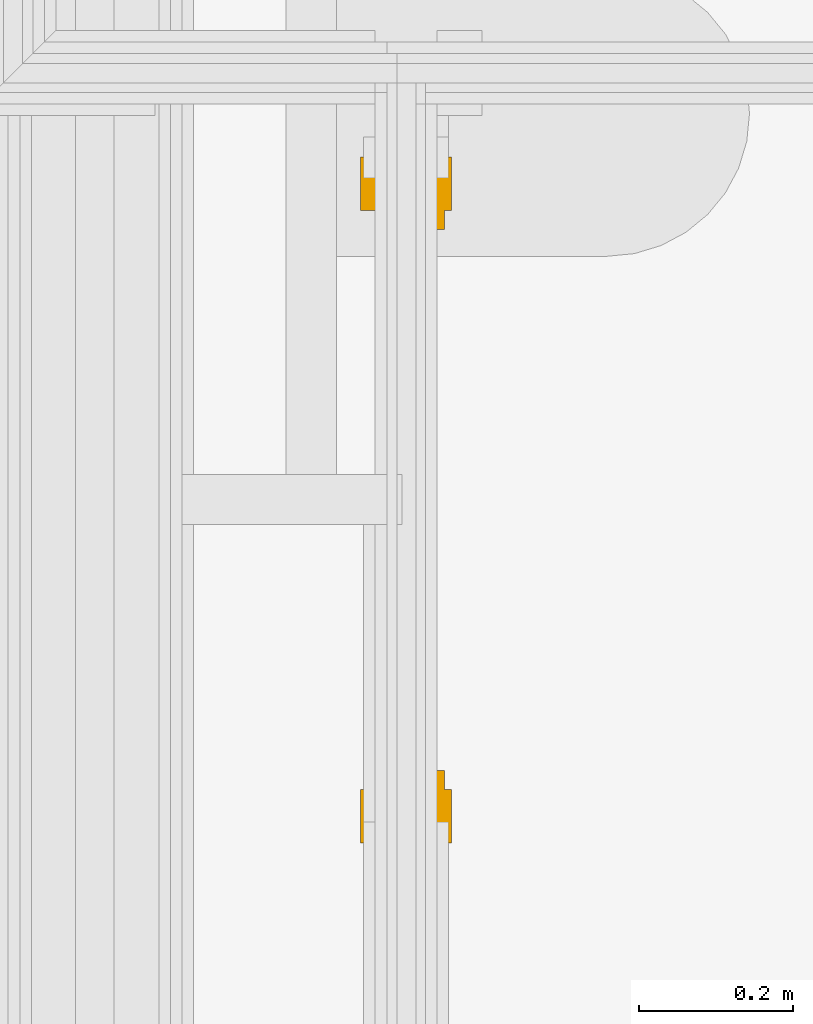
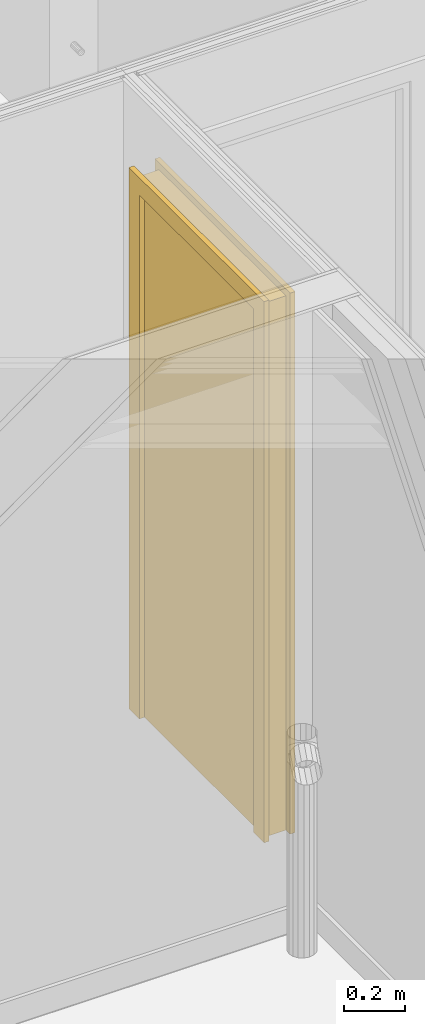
# One storey, part 113 of 169: 1 door.
"""IFC2X3 building model written with IfcOpenShell, lengths in metres."""

from ifc_helpers import new_model, entity, si_unit, converted_unit, derived_unit, money_unit, direction, frame, origin_with_axes, place, context, subcontext, project, spatial, faceted_brep, material, type_object, element, save


model = new_model("IFC2X3")

# Units and contexts
model_context = context("Model", 3, precision=1e-05, world=origin_with_axes(), true_north=direction((0.0, 1.0)))
body_context = subcontext(model_context, "Body", "Model", "MODEL_VIEW", scale=1.0)
ifc_project = project(units=[si_unit("LENGTHUNIT", "METRE"), si_unit("AREAUNIT", "SQUARE_METRE"), si_unit("VOLUMEUNIT", "CUBIC_METRE"), si_unit("ABSORBEDDOSEUNIT", "GRAY"), si_unit("AMOUNTOFSUBSTANCEUNIT", "MOLE"), si_unit("DOSEEQUIVALENTUNIT", "SIEVERT"), si_unit("ELECTRICCAPACITANCEUNIT", "FARAD"), si_unit("ELECTRICCHARGEUNIT", "COULOMB"), si_unit("ELECTRICCONDUCTANCEUNIT", "SIEMENS"), si_unit("ELECTRICCURRENTUNIT", "AMPERE"), si_unit("ELECTRICRESISTANCEUNIT", "OHM"), si_unit("ELECTRICVOLTAGEUNIT", "VOLT"), si_unit("ENERGYUNIT", "JOULE"), si_unit("FORCEUNIT", "NEWTON"), si_unit("FREQUENCYUNIT", "HERTZ"), si_unit("ILLUMINANCEUNIT", "LUX"), si_unit("INDUCTANCEUNIT", "HENRY"), si_unit("LUMINOUSFLUXUNIT", "LUMEN"), si_unit("LUMINOUSINTENSITYUNIT", "CANDELA"), si_unit("MAGNETICFLUXDENSITYUNIT", "TESLA"), si_unit("MAGNETICFLUXUNIT", "WEBER"), si_unit("MASSUNIT", "GRAM"), converted_unit("PLANEANGLEUNIT", "degree", entity("IfcReal", 0.0174532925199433), si_unit("PLANEANGLEUNIT", "RADIAN"), dimensions=[0, 0, 0, 0, 0, 0, 0]), si_unit("POWERUNIT", "WATT"), si_unit("PRESSUREUNIT", "PASCAL"), si_unit("RADIOACTIVITYUNIT", "BECQUEREL"), si_unit("SOLIDANGLEUNIT", "STERADIAN"), si_unit("THERMODYNAMICTEMPERATUREUNIT", "KELVIN"), si_unit("TIMEUNIT", "SECOND"), derived_unit("ACCELERATIONUNIT", [(si_unit("LENGTHUNIT", "METRE"), 1), (si_unit("TIMEUNIT", "SECOND"), -2)]), derived_unit("ANGULARVELOCITYUNIT", [(converted_unit("PLANEANGLEUNIT", "degree", entity("IfcReal", 0.0174532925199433), si_unit("PLANEANGLEUNIT", "RADIAN"), dimensions=[0, 0, 0, 0, 0, 0, 0]), 1), (si_unit("TIMEUNIT", "SECOND"), -1)]), derived_unit("CURVATUREUNIT", [(converted_unit("PLANEANGLEUNIT", "degree", entity("IfcReal", 0.0174532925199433), si_unit("PLANEANGLEUNIT", "RADIAN"), dimensions=[0, 0, 0, 0, 0, 0, 0]), 1), (si_unit("LENGTHUNIT", "METRE"), -1)]), derived_unit("DYNAMICVISCOSITYUNIT", [(si_unit("PRESSUREUNIT", "PASCAL"), 1), (si_unit("TIMEUNIT", "SECOND"), 1)]), derived_unit("HEATFLUXDENSITYUNIT", [(si_unit("POWERUNIT", "WATT"), 1), (si_unit("LENGTHUNIT", "METRE"), -2)]), derived_unit("HEATINGVALUEUNIT", [(si_unit("ENERGYUNIT", "JOULE"), 1), (si_unit("MASSUNIT", "GRAM"), -1)]), derived_unit("INTEGERCOUNTRATEUNIT", [(si_unit("TIMEUNIT", "SECOND"), -1)]), derived_unit("IONCONCENTRATIONUNIT", [(si_unit("MASSUNIT", "GRAM"), 1), (si_unit("VOLUMEUNIT", "CUBIC_METRE"), -1)]), derived_unit("ISOTHERMALMOISTURECAPACITYUNIT", [(si_unit("VOLUMEUNIT", "CUBIC_METRE"), 1), (si_unit("MASSUNIT", "GRAM"), -1)]), derived_unit("KINEMATICVISCOSITYUNIT", [(si_unit("AREAUNIT", "SQUARE_METRE"), 1), (si_unit("TIMEUNIT", "SECOND"), -1)]), derived_unit("LINEARFORCEUNIT", [(si_unit("FORCEUNIT", "NEWTON"), 1), (si_unit("LENGTHUNIT", "METRE"), -1)]), derived_unit("LINEARMOMENTUNIT", [(si_unit("FORCEUNIT", "NEWTON"), 1), (si_unit("LENGTHUNIT", "METRE"), -1)]), derived_unit("LINEARSTIFFNESSUNIT", [(si_unit("FORCEUNIT", "NEWTON"), 1), (si_unit("LENGTHUNIT", "METRE"), -1)]), derived_unit("LINEARVELOCITYUNIT", [(si_unit("LENGTHUNIT", "METRE"), 1), (si_unit("TIMEUNIT", "SECOND"), -1)]), derived_unit("LUMINOUSINTENSITYDISTRIBUTIONUNIT", [(si_unit("LUMINOUSINTENSITYUNIT", "CANDELA"), 1), (si_unit("LUMINOUSFLUXUNIT", "LUMEN"), -1)]), derived_unit("MASSDENSITYUNIT", [(si_unit("MASSUNIT", "GRAM"), 1), (si_unit("VOLUMEUNIT", "CUBIC_METRE"), -1)]), derived_unit("MASSFLOWRATEUNIT", [(si_unit("MASSUNIT", "GRAM"), 1), (si_unit("TIMEUNIT", "SECOND"), -1)]), derived_unit("MASSPERLENGTHUNIT", [(si_unit("MASSUNIT", "GRAM"), 1), (si_unit("LENGTHUNIT", "METRE"), -1)]), derived_unit("MODULUSOFELASTICITYUNIT", [(si_unit("FORCEUNIT", "NEWTON"), 1), (si_unit("AREAUNIT", "SQUARE_METRE"), -1)]), derived_unit("MODULUSOFLINEARSUBGRADEREACTIONUNIT", [(si_unit("FORCEUNIT", "NEWTON"), 1), (si_unit("LENGTHUNIT", "METRE"), -2)]), derived_unit("MODULUSOFROTATIONALSUBGRADEREACTIONUNIT", [(si_unit("FORCEUNIT", "NEWTON"), 1), (si_unit("LENGTHUNIT", "METRE"), 1)]), derived_unit("MODULUSOFSUBGRADEREACTIONUNIT", [(si_unit("FORCEUNIT", "NEWTON"), 1), (si_unit("VOLUMEUNIT", "CUBIC_METRE"), -1)]), derived_unit("MOISTUREDIFFUSIVITYUNIT", [(si_unit("VOLUMEUNIT", "CUBIC_METRE"), 1), (si_unit("TIMEUNIT", "SECOND"), -1)]), derived_unit("MOLECULARWEIGHTUNIT", [(si_unit("MASSUNIT", "GRAM"), 1), (si_unit("AMOUNTOFSUBSTANCEUNIT", "MOLE"), -1)]), derived_unit("PLANARFORCEUNIT", [(si_unit("FORCEUNIT", "NEWTON"), 1), (si_unit("LENGTHUNIT", "METRE"), -2)]), derived_unit("ROTATIONALFREQUENCYUNIT", [(si_unit("TIMEUNIT", "SECOND"), -1)]), derived_unit("ROTATIONALMASSUNIT", [(si_unit("MASSUNIT", "GRAM"), 1), (si_unit("LENGTHUNIT", "METRE"), 2)]), derived_unit("ROTATIONALSTIFFNESSUNIT", [(si_unit("FORCEUNIT", "NEWTON"), 1), (si_unit("LENGTHUNIT", "METRE"), 1), (converted_unit("PLANEANGLEUNIT", "degree", entity("IfcReal", 0.0174532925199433), si_unit("PLANEANGLEUNIT", "RADIAN"), dimensions=[0, 0, 0, 0, 0, 0, 0]), -1)]), derived_unit("SECTIONAREAINTEGRALUNIT", [(si_unit("LENGTHUNIT", "METRE"), 5)]), derived_unit("SECTIONMODULUSUNIT", [(si_unit("LENGTHUNIT", "METRE"), 3)]), derived_unit("SHEARMODULUSUNIT", [(si_unit("FORCEUNIT", "NEWTON"), 1), (si_unit("AREAUNIT", "SQUARE_METRE"), -1)]), derived_unit("SOUNDPOWERUNIT", [(si_unit("ENERGYUNIT", "JOULE"), 1), (si_unit("TIMEUNIT", "SECOND"), -1)]), derived_unit("SPECIFICHEATCAPACITYUNIT", [(si_unit("FORCEUNIT", "NEWTON"), 1), (si_unit("MASSUNIT", "GRAM"), -1), (si_unit("THERMODYNAMICTEMPERATUREUNIT", "KELVIN"), -1)]), derived_unit("TEMPERATUREGRADIENTUNIT", [(si_unit("THERMODYNAMICTEMPERATUREUNIT", "KELVIN"), 1), (si_unit("LENGTHUNIT", "METRE"), -1)]), derived_unit("THERMALADMITTANCEUNIT", [(si_unit("POWERUNIT", "WATT"), 1), (si_unit("AREAUNIT", "SQUARE_METRE"), -1), (si_unit("THERMODYNAMICTEMPERATUREUNIT", "KELVIN"), -1)]), derived_unit("THERMALCONDUCTANCEUNIT", [(si_unit("POWERUNIT", "WATT"), 1), (si_unit("LENGTHUNIT", "METRE"), -1), (si_unit("THERMODYNAMICTEMPERATUREUNIT", "KELVIN"), -1)]), derived_unit("THERMALEXPANSIONCOEFFICIENTUNIT", [(si_unit("THERMODYNAMICTEMPERATUREUNIT", "KELVIN"), -1)]), derived_unit("THERMALRESISTANCEUNIT", [(si_unit("AREAUNIT", "SQUARE_METRE"), 1), (si_unit("POWERUNIT", "WATT"), -1)]), derived_unit("THERMALTRANSMITTANCEUNIT", [(si_unit("POWERUNIT", "WATT"), 1), (si_unit("AREAUNIT", "SQUARE_METRE"), -1), (si_unit("THERMODYNAMICTEMPERATUREUNIT", "KELVIN"), -1)]), derived_unit("TORQUEUNIT", [(si_unit("FORCEUNIT", "NEWTON"), 1), (si_unit("LENGTHUNIT", "METRE"), 1)]), derived_unit("VAPORPERMEABILITYUNIT", [(si_unit("MASSUNIT", "GRAM"), 1), (si_unit("TIMEUNIT", "SECOND"), -1)]), derived_unit("VOLUMETRICFLOWRATEUNIT", [(si_unit("VOLUMEUNIT", "CUBIC_METRE"), 1), (si_unit("TIMEUNIT", "SECOND"), -1)]), derived_unit("WARPINGCONSTANTUNIT", [(si_unit("LENGTHUNIT", "METRE"), 6)]), derived_unit("WARPINGMOMENTUNIT", [(si_unit("FORCEUNIT", "NEWTON"), 1), (si_unit("LENGTHUNIT", "METRE"), 2)]), money_unit("GBP")], contexts=[model_context])

# Site, building, storey, space
site_placement = place(None, origin_with_axes())
site = spatial("IfcSite", under=ifc_project, at=site_placement, Name="Site", CompositionType="ELEMENT")
building_placement = place(site_placement, origin_with_axes())
building = spatial("IfcBuilding", under=site, at=building_placement, Name="Building01", CompositionType="ELEMENT")
storey_placement = place(building_placement, frame((0.0, 0.0, 5.15), z_axis=(0.0, 0.0, 1.0), x_axis=(1.0, 0.0, 0.0)))
storey = spatial("IfcBuildingStorey", under=building, at=storey_placement, Name="1F", CompositionType="ELEMENT", Elevation=5.15)
space_placement = place(storey_placement, frame((16.03844, 8.82, 9.86), z_axis=(0.0, 0.0, 1.0), x_axis=(0.0, -1.0, 0.0)))
space = spatial("IfcSpace", under=storey, at=space_placement, Name="23", CompositionType="ELEMENT", InteriorOrExteriorSpace="NOTDEFINED")

# Door
ifc_material = material(Name="A_BSUK_Doors")
door_style = type_object("IfcDoorStyle", Name="A-Doors-SingleFlush", ConstructionType="USERDEFINED", OperationType="SINGLE_SWING_RIGHT", ParameterTakesPrecedence=False, Sizeable=False)
door_placement = place(storey_placement, frame((15.95844, 9.211939, 9.83), z_axis=(0.0, 0.0, 1.0), x_axis=(0.0, 1.0, 0.0)))
element("IfcDoor", 1, at=door_placement, inside=space, type_object=door_style, material=ifc_material, Name="4.05", ObjectType="A-Doors-SingleFlush", OverallHeight=2.16900000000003, OverallWidth=0.888000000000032, context=body_context, shape_type="Brep", body=[
    faceted_brep([(0.75, -0.099, 0.0), (0.819, -0.099, 0.0), (0.819, -0.099, 2.169), (-0.069, -0.099, 2.169), (-0.069, -0.099, 0.0), (0.0, -0.099, 0.0), (0.0, -0.099, 2.1), (0.75, -0.099, 2.1), (-0.069, -0.08, 0.0), (-0.069, -0.08, 2.169), (0.819, -0.08, 2.169), (0.819, -0.08, 0.0), (0.75, 0.019, 0.0), (0.819, 0.019, 0.0), (0.819, 0.0, 0.0), (0.792, 0.0, 0.0), (0.792, -0.08, 0.0), (0.75, 0.019, 2.1), (0.0, 0.019, 2.1), (0.0, 0.019, 0.0), (-0.069, 0.019, 0.0), (-0.069, 0.019, 2.169), (0.819, 0.019, 2.169), (0.819, 0.0, 2.169), (0.792, -0.08, 2.142), (0.792, 0.0, 2.142), (-0.042, -0.08, 2.142), (-0.042, 0.0, 2.142), (-0.042, -0.08, 0.0), (-0.042, 0.0, 0.0), (-0.069, 0.0, 2.169), (-0.069, 0.0, 0.0)], [[[0, 1, 2, 3, 4, 5, 6, 7]], [[8, 4, 3, 9]], [[10, 2, 1, 11]], [[9, 3, 2, 10]], [[12, 13, 14, 15, 16, 11, 1, 0]], [[7, 17, 12, 0]], [[6, 18, 17, 7]], [[18, 19, 20, 21, 22, 13, 12, 17]], [[5, 19, 18, 6]], [[13, 22, 23, 14]], [[24, 16, 15, 25]], [[26, 24, 25, 27]], [[11, 16, 24, 26, 28, 8, 9, 10]], [[27, 29, 28, 26]], [[25, 15, 14, 23, 30, 31, 29, 27]], [[5, 4, 8, 28, 29, 31, 20, 19]], [[30, 21, 20, 31]], [[23, 22, 21, 30]]]),
    faceted_brep([(0.0, -0.09, 2.1), (0.0, -0.04, 2.1), (0.0, -0.04, 0.0), (0.0, -0.09, 0.0), (0.725, -0.09, 0.0), (0.75, -0.09, 0.0), (0.75, -0.09, 2.1), (0.025, -0.09, 0.0), (0.025, -0.09, 2.075), (0.725, -0.09, 2.075), (0.725, -0.04, 0.0), (0.75, -0.04, 0.0), (0.75, -0.04, 2.1), (0.025, -0.04, 2.075), (0.025, -0.04, 0.0), (0.725, -0.04, 2.075)], [[[0, 1, 2, 3]], [[4, 5, 6, 0, 3, 7, 8, 9]], [[10, 11, 5, 4]], [[6, 12, 1, 0]], [[5, 11, 12, 6]], [[13, 14, 2, 1, 12, 11, 10, 15]], [[7, 14, 13, 8]], [[7, 3, 2, 14]], [[9, 15, 10, 4]], [[8, 13, 15, 9]]]),
    faceted_brep([(0.75, -0.04, 0.0), (0.75, 0.0, 0.0), (0.75, 0.0, 2.1), (0.75, -0.04, 2.1), (0.0, -0.04, 2.1), (0.0, 0.0, 2.1), (0.0, 0.0, 0.0), (0.0, -0.04, 0.0)], [[[0, 1, 2, 3]], [[4, 5, 6, 7]], [[7, 6, 1, 0]], [[3, 4, 7, 0]], [[3, 2, 5, 4]], [[1, 6, 5, 2]]]),
])

save(model, "model.ifc")
